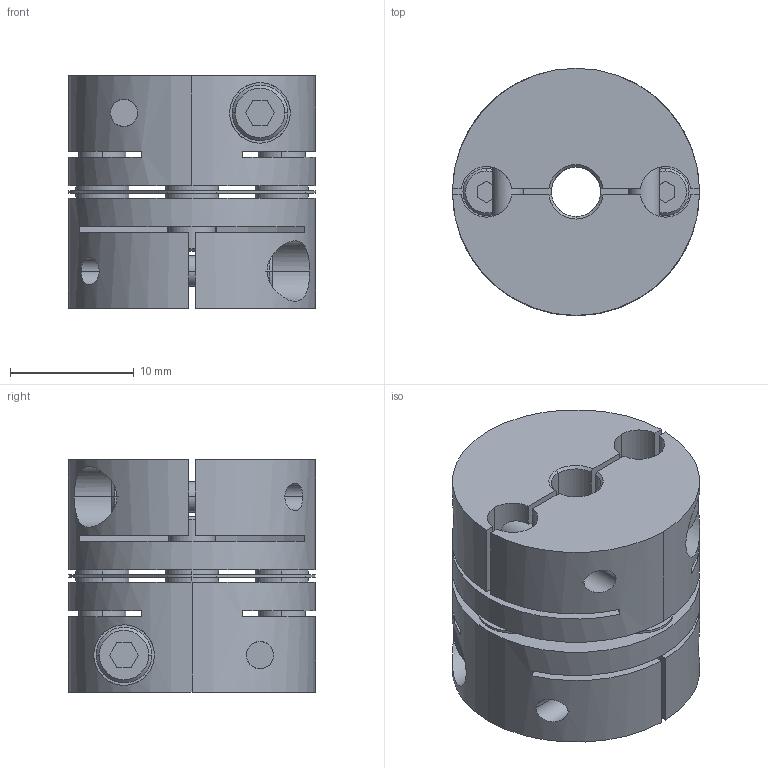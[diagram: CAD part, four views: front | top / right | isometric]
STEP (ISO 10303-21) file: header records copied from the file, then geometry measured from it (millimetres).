
FILE_DESCRIPTION((''),'2;1');
FILE_NAME('LAS-20C-4×4.5.stp','2016-04-21T12:02:34',(''),(''),'AutoCAD STEP 2000i','AutoCAD 2000i',', , ');
FILE_SCHEMA(('CONFIG_CONTROL_DESIGN'));
Length unit declared in the file: millimetre
Products named in the file (5): LAS-20C-4×4; 忣兜1; LA-2002-D04-1; LA-2002-D04; LAS20-ITA
Assembly tree (4 placements, depth 2):
  LAS-20C-4×4
    忣兜1
    LA-2002-D04-1
    LA-2002-D04
    LAS20-ITA
Bounding box: 20 x 20 x 18.8 mm (x, y, z)
Volume: 4740.8 mm3; surface area: 4582.9 mm2
Topology: 1 solids, 1 shells, 236 faces, 624 edges, 408 vertices
Faces by surface type: plane 112, cylinder 96, cone 28
Entity records: 8203 total; most frequent: CARTESIAN_POINT 2009, DIRECTION 1302, ORIENTED_EDGE 1248, EDGE_CURVE 624, AXIS2_PLACEMENT_3D 477, VERTEX_POINT 408, VECTOR 348, LINE 348
